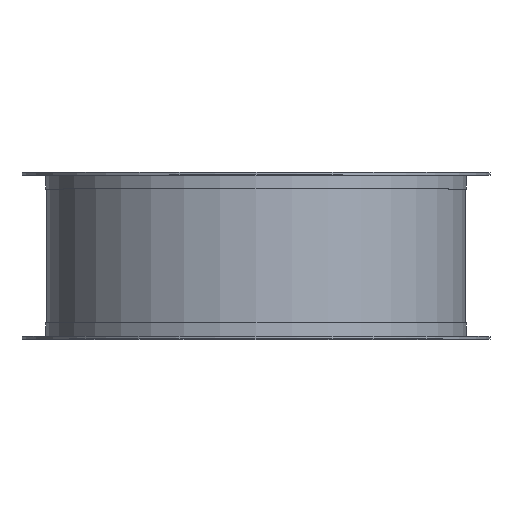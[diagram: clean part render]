
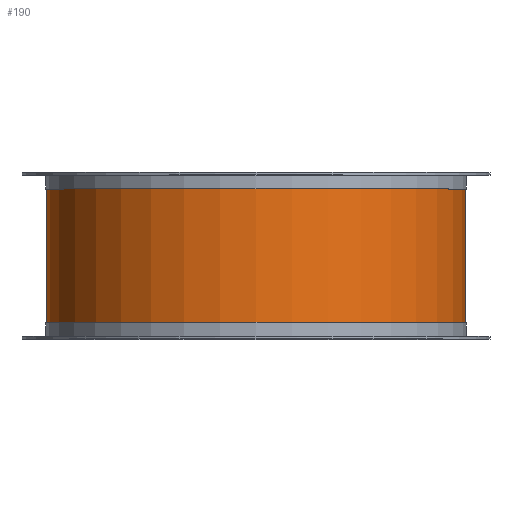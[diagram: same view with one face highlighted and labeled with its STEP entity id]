
A CAD part, top view. The second image highlights one B-rep face of the part: STEP entity #190.
In plain terms, the highlighted cylindrical face has radius 319.5 mm (diameter 639 mm), a partial arc.
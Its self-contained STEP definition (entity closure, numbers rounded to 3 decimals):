
#190=ADVANCED_FACE('',(#414),#415,.T.);
#414=FACE_OUTER_BOUND('',#629,.T.);
#415=CYLINDRICAL_SURFACE('',#630,319.5);
#629=EDGE_LOOP('',(#1137,#1138,#1139,#1140));
#630=AXIS2_PLACEMENT_3D('',#1141,#1142,#1143);
#1137=ORIENTED_EDGE('',*,*,#1145,.T.);
#1138=ORIENTED_EDGE('',*,*,#1302,.T.);
#1139=ORIENTED_EDGE('',*,*,#1147,.T.);
#1140=ORIENTED_EDGE('',*,*,#1341,.T.);
#1141=CARTESIAN_POINT('',(0.0,127.0,0.0));
#1142=DIRECTION('',(-0.0,1.0,0.0));
#1143=DIRECTION('',(1.0,0.0,0.0));
#1145=EDGE_CURVE('',#1345,#1346,#1347,.T.);
#1147=EDGE_CURVE('',#1350,#1348,#1351,.T.);
#1302=EDGE_CURVE('',#1346,#1350,#1598,.T.);
#1341=EDGE_CURVE('',#1348,#1345,#1637,.T.);
#1345=VERTEX_POINT('',#1641);
#1346=VERTEX_POINT('',#1642);
#1347=LINE('',#1643,#1644);
#1348=VERTEX_POINT('',#1645);
#1350=VERTEX_POINT('',#1647);
#1351=LINE('',#1648,#1649);
#1598=CIRCLE('',#1942,319.5);
#1637=CIRCLE('',#1981,319.5);
#1641=CARTESIAN_POINT('',(319.5,25.0,0.));
#1642=CARTESIAN_POINT('',(319.5,229.0,0.));
#1643=CARTESIAN_POINT('',(319.5,127.0,0.));
#1644=VECTOR('',#1984,1.0);
#1645=CARTESIAN_POINT('',(-319.5,25.0,0.));
#1647=CARTESIAN_POINT('',(-319.5,229.0,0.));
#1648=CARTESIAN_POINT('',(-319.5,127.0,0.));
#1649=VECTOR('',#1988,1.0);
#1942=AXIS2_PLACEMENT_3D('',#2245,#2246,#2247);
#1981=AXIS2_PLACEMENT_3D('',#2317,#2318,#2319);
#1984=DIRECTION('',(0.0,1.0,0.0));
#1988=DIRECTION('',(-0.0,-1.0,-0.0));
#2245=CARTESIAN_POINT('',(0.0,229.0,0.0));
#2246=DIRECTION('',(0.0,-1.0,0.));
#2247=DIRECTION('',(1.0,0.0,0.0));
#2317=CARTESIAN_POINT('',(0.0,25.0,0.0));
#2318=DIRECTION('',(-0.0,1.0,0.0));
#2319=DIRECTION('',(1.0,0.0,0.0));
